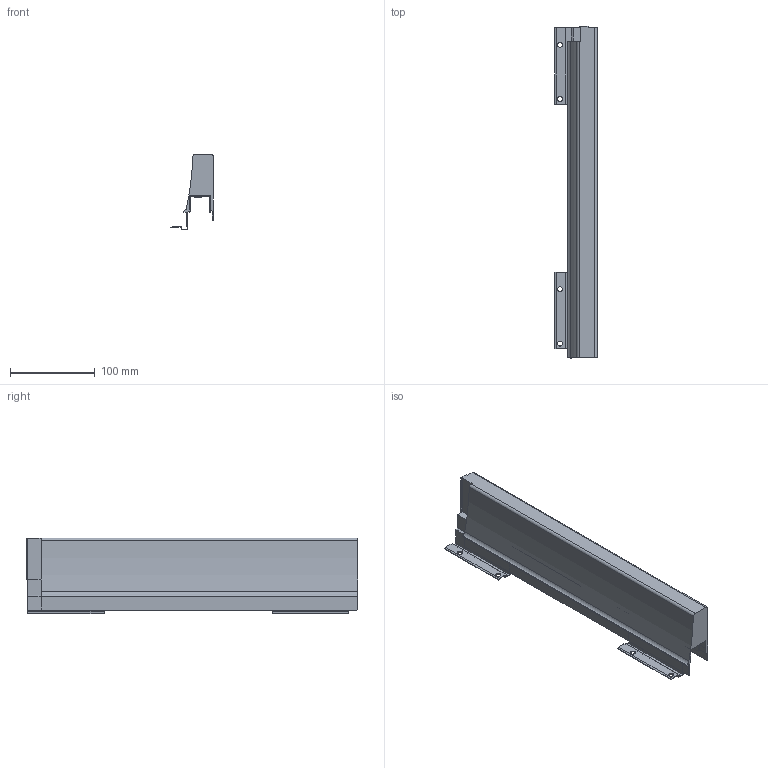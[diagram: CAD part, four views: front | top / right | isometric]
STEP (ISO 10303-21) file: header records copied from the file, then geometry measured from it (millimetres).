
FILE_DESCRIPTION (( 'STEP AP214' ), '1' );
FILE_NAME ('_XP Agantis Dekorseite H95 NL400 RE.step', '2010-07-08T06:05:24', ( 'grass' ), ( '' ), 'SwSTEP 2.0', 'SolidWorks 2010', '' );
FILE_SCHEMA (( 'AUTOMOTIVE_DESIGN' ));
Length unit declared in the file: millimetre
Products named in the file (1): _XP Agantis Dekorseite H95 NL400 RE
Bounding box: 50.01 x 391.5 x 89.5 mm (x, y, z)
Volume: 548741.3 mm3; surface area: 128709.7 mm2
Topology: 1 solids, 1 shells, 102 faces, 298 edges, 195 vertices
Faces by surface type: plane 79, cylinder 23
Entity records: 3399 total; most frequent: CARTESIAN_POINT 596, ORIENTED_EDGE 596, DIRECTION 551, EDGE_CURVE 298, LINE 251, VECTOR 251, VERTEX_POINT 195, AXIS2_PLACEMENT_3D 150
